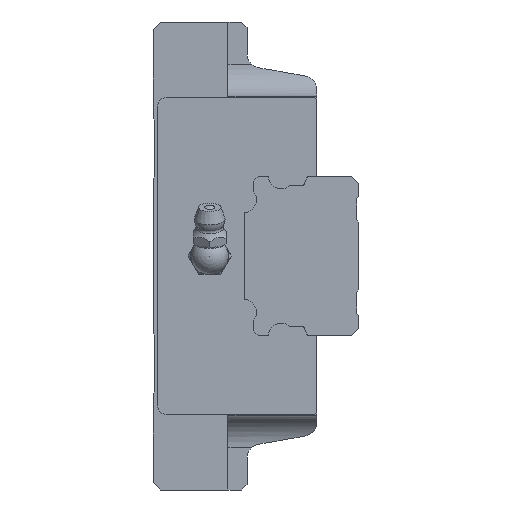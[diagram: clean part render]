
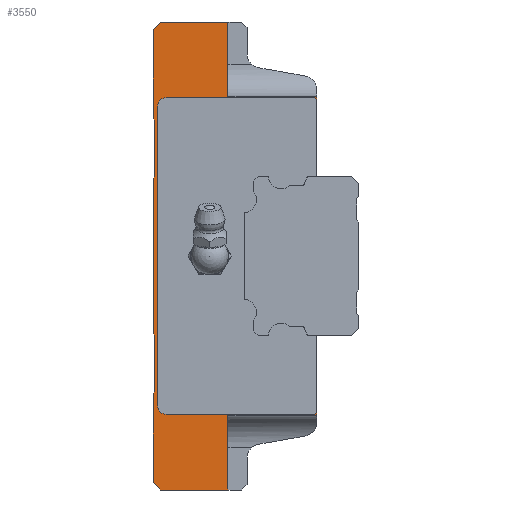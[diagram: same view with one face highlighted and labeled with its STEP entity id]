
A CAD part, left-side view. The second image highlights one B-rep face of the part: STEP entity #3550.
In plain terms, the highlighted planar face has unit normal (-1, 0, 0).
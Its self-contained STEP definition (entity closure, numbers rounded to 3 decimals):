
#208=CIRCLE('',#3906,1.8);
#209=CIRCLE('',#3907,1.8);
#855=ORIENTED_EDGE('',*,*,#1664,.T.);
#856=ORIENTED_EDGE('',*,*,#1665,.F.);
#857=ORIENTED_EDGE('',*,*,#1518,.F.);
#858=ORIENTED_EDGE('',*,*,#1666,.F.);
#859=ORIENTED_EDGE('',*,*,#1667,.F.);
#860=ORIENTED_EDGE('',*,*,#1668,.F.);
#861=ORIENTED_EDGE('',*,*,#1669,.F.);
#862=ORIENTED_EDGE('',*,*,#1670,.F.);
#863=ORIENTED_EDGE('',*,*,#1671,.F.);
#864=ORIENTED_EDGE('',*,*,#1672,.F.);
#865=ORIENTED_EDGE('',*,*,#1505,.F.);
#866=ORIENTED_EDGE('',*,*,#1673,.T.);
#867=ORIENTED_EDGE('',*,*,#1674,.T.);
#868=ORIENTED_EDGE('',*,*,#1603,.F.);
#869=ORIENTED_EDGE('',*,*,#1595,.F.);
#870=ORIENTED_EDGE('',*,*,#1651,.F.);
#871=ORIENTED_EDGE('',*,*,#1648,.F.);
#872=ORIENTED_EDGE('',*,*,#1645,.F.);
#873=ORIENTED_EDGE('',*,*,#1642,.F.);
#874=ORIENTED_EDGE('',*,*,#1639,.F.);
#875=ORIENTED_EDGE('',*,*,#1636,.F.);
#876=ORIENTED_EDGE('',*,*,#1633,.F.);
#877=ORIENTED_EDGE('',*,*,#1630,.F.);
#878=ORIENTED_EDGE('',*,*,#1627,.F.);
#879=ORIENTED_EDGE('',*,*,#1624,.F.);
#880=ORIENTED_EDGE('',*,*,#1621,.F.);
#1505=EDGE_CURVE('',#1959,#1960,#2282,.T.);
#1518=EDGE_CURVE('',#1971,#1972,#2295,.T.);
#1595=EDGE_CURVE('',#2044,#2045,#2333,.T.);
#1603=EDGE_CURVE('',#2045,#2052,#2341,.T.);
#1621=EDGE_CURVE('',#2063,#2064,#2359,.T.);
#1624=EDGE_CURVE('',#2064,#2066,#2362,.T.);
#1627=EDGE_CURVE('',#2066,#2068,#2365,.T.);
#1630=EDGE_CURVE('',#2068,#2070,#2368,.T.);
#1633=EDGE_CURVE('',#2070,#2072,#2371,.T.);
#1636=EDGE_CURVE('',#2072,#2074,#2374,.T.);
#1639=EDGE_CURVE('',#2074,#2076,#2377,.T.);
#1642=EDGE_CURVE('',#2076,#2078,#2380,.T.);
#1645=EDGE_CURVE('',#2078,#2080,#2383,.T.);
#1648=EDGE_CURVE('',#2080,#2082,#2386,.T.);
#1651=EDGE_CURVE('',#2082,#2044,#2389,.T.);
#1664=EDGE_CURVE('',#2063,#2092,#2400,.T.);
#1665=EDGE_CURVE('',#1972,#2092,#2401,.T.);
#1666=EDGE_CURVE('',#2093,#1971,#2402,.T.);
#1667=EDGE_CURVE('',#2094,#2093,#2403,.T.);
#1668=EDGE_CURVE('',#2095,#2094,#208,.F.);
#1669=EDGE_CURVE('',#2096,#2095,#2404,.T.);
#1670=EDGE_CURVE('',#2097,#2096,#209,.F.);
#1671=EDGE_CURVE('',#2098,#2097,#2405,.T.);
#1672=EDGE_CURVE('',#1960,#2098,#2406,.T.);
#1673=EDGE_CURVE('',#1959,#2099,#2407,.T.);
#1674=EDGE_CURVE('',#2099,#2052,#2408,.T.);
#1959=VERTEX_POINT('',#5543);
#1960=VERTEX_POINT('',#5545);
#1971=VERTEX_POINT('',#5569);
#1972=VERTEX_POINT('',#5571);
#2044=VERTEX_POINT('',#5723);
#2045=VERTEX_POINT('',#5724);
#2052=VERTEX_POINT('',#5740);
#2063=VERTEX_POINT('',#5773);
#2064=VERTEX_POINT('',#5775);
#2066=VERTEX_POINT('',#5781);
#2068=VERTEX_POINT('',#5787);
#2070=VERTEX_POINT('',#5793);
#2072=VERTEX_POINT('',#5799);
#2074=VERTEX_POINT('',#5805);
#2076=VERTEX_POINT('',#5811);
#2078=VERTEX_POINT('',#5817);
#2080=VERTEX_POINT('',#5823);
#2082=VERTEX_POINT('',#5829);
#2092=VERTEX_POINT('',#5858);
#2093=VERTEX_POINT('',#5861);
#2094=VERTEX_POINT('',#5863);
#2095=VERTEX_POINT('',#5865);
#2096=VERTEX_POINT('',#5867);
#2097=VERTEX_POINT('',#5869);
#2098=VERTEX_POINT('',#5871);
#2099=VERTEX_POINT('',#5874);
#2282=LINE('',#5544,#2594);
#2295=LINE('',#5570,#2607);
#2333=LINE('',#5722,#2645);
#2341=LINE('',#5739,#2653);
#2359=LINE('',#5774,#2671);
#2362=LINE('',#5780,#2674);
#2365=LINE('',#5786,#2677);
#2368=LINE('',#5792,#2680);
#2371=LINE('',#5798,#2683);
#2374=LINE('',#5804,#2686);
#2377=LINE('',#5810,#2689);
#2380=LINE('',#5816,#2692);
#2383=LINE('',#5822,#2695);
#2386=LINE('',#5828,#2698);
#2389=LINE('',#5834,#2701);
#2400=LINE('',#5857,#2712);
#2401=LINE('',#5859,#2713);
#2402=LINE('',#5860,#2714);
#2403=LINE('',#5862,#2715);
#2404=LINE('',#5866,#2716);
#2405=LINE('',#5870,#2717);
#2406=LINE('',#5872,#2718);
#2407=LINE('',#5873,#2719);
#2408=LINE('',#5875,#2720);
#2594=VECTOR('',#4456,1000.);
#2607=VECTOR('',#4471,1000.);
#2645=VECTOR('',#4593,1000.);
#2653=VECTOR('',#4603,1000.);
#2671=VECTOR('',#4631,1000.);
#2674=VECTOR('',#4636,1000.);
#2677=VECTOR('',#4641,1000.);
#2680=VECTOR('',#4646,1000.);
#2683=VECTOR('',#4651,1000.);
#2686=VECTOR('',#4656,1000.);
#2689=VECTOR('',#4661,1000.);
#2692=VECTOR('',#4666,1000.);
#2695=VECTOR('',#4671,1000.);
#2698=VECTOR('',#4676,1000.);
#2701=VECTOR('',#4681,1000.);
#2712=VECTOR('',#4700,1000.);
#2713=VECTOR('',#4701,1000.);
#2714=VECTOR('',#4702,1000.);
#2715=VECTOR('',#4703,1000.);
#2716=VECTOR('',#4706,1000.);
#2717=VECTOR('',#4709,1000.);
#2718=VECTOR('',#4710,1000.);
#2719=VECTOR('',#4711,1000.);
#2720=VECTOR('',#4712,1000.);
#2920=EDGE_LOOP('',(#855,#856,#857,#858,#859,#860,#861,#862,#863,#864,#865,
#866,#867,#868,#869,#870,#871,#872,#873,#874,#875,#876,#877,#878,#879,#880));
#3191=FACE_BOUND('',#2920,.T.);
#3399=PLANE('',#3905);
#3550=ADVANCED_FACE('',(#3191),#3399,.F.);
#3905=AXIS2_PLACEMENT_3D('',#5856,#4698,#4699);
#3906=AXIS2_PLACEMENT_3D('',#5864,#4704,#4705);
#3907=AXIS2_PLACEMENT_3D('',#5868,#4707,#4708);
#4456=DIRECTION('',(0.,0.,-1.));
#4471=DIRECTION('',(0.,0.,-1.));
#4593=DIRECTION('',(0.,-0.707,0.707));
#4603=DIRECTION('',(0.,-1.,0.));
#4631=DIRECTION('',(0.,1.,0.));
#4636=DIRECTION('',(0.,0.707,0.707));
#4641=DIRECTION('',(0.,0.,1.));
#4646=DIRECTION('',(0.,-0.717,0.697));
#4651=DIRECTION('',(0.,0.,1.));
#4656=DIRECTION('',(0.,0.717,0.697));
#4661=DIRECTION('',(0.,0.,1.));
#4666=DIRECTION('',(0.,-0.717,0.697));
#4671=DIRECTION('',(0.,0.,1.));
#4676=DIRECTION('',(0.,0.717,0.697));
#4681=DIRECTION('',(0.,0.,1.));
#4698=DIRECTION('',(1.,0.,0.));
#4699=DIRECTION('',(0.,0.,-1.));
#4700=DIRECTION('',(0.,0.,1.));
#4701=DIRECTION('',(0.,1.,0.));
#4702=DIRECTION('',(0.,-0.707,0.707));
#4703=DIRECTION('',(0.,-1.,0.));
#4704=DIRECTION('',(1.,0.,0.));
#4705=DIRECTION('',(0.,0.,-1.));
#4706=DIRECTION('',(0.,0.,-1.));
#4707=DIRECTION('',(1.,0.,0.));
#4708=DIRECTION('',(0.,0.,-1.));
#4709=DIRECTION('',(0.,1.,0.));
#4710=DIRECTION('',(0.,0.707,0.707));
#4711=DIRECTION('',(0.,1.,0.));
#4712=DIRECTION('',(0.,0.,1.));
#5543=CARTESIAN_POINT('',(-39.5,0.,34.));
#5544=CARTESIAN_POINT('',(-39.5,0.,35.5));
#5545=CARTESIAN_POINT('',(-39.5,0.,33.3));
#5569=CARTESIAN_POINT('',(-39.5,0.,-33.3));
#5570=CARTESIAN_POINT('',(-39.5,0.,35.5));
#5571=CARTESIAN_POINT('',(-39.5,0.,-34.));
#5722=CARTESIAN_POINT('',(-39.5,35.,48.4));
#5723=CARTESIAN_POINT('',(-39.5,35.,48.4));
#5724=CARTESIAN_POINT('',(-39.5,33.4,50.));
#5739=CARTESIAN_POINT('',(-39.5,33.4,50.));
#5740=CARTESIAN_POINT('',(-39.5,19.,50.));
#5773=CARTESIAN_POINT('',(-39.5,19.,-50.));
#5774=CARTESIAN_POINT('',(-39.5,16.1,-50.));
#5775=CARTESIAN_POINT('',(-39.5,33.4,-50.));
#5780=CARTESIAN_POINT('',(-39.5,33.4,-50.));
#5781=CARTESIAN_POINT('',(-39.5,35.,-48.4));
#5786=CARTESIAN_POINT('',(-39.5,35.,-48.4));
#5787=CARTESIAN_POINT('',(-39.5,35.,-29.4));
#5792=CARTESIAN_POINT('',(-39.5,35.,-29.4));
#5793=CARTESIAN_POINT('',(-39.5,34.6,-29.011));
#5798=CARTESIAN_POINT('',(-39.5,34.6,-29.011));
#5799=CARTESIAN_POINT('',(-39.5,34.6,-16.989));
#5804=CARTESIAN_POINT('',(-39.5,34.6,-16.989));
#5805=CARTESIAN_POINT('',(-39.5,35.,-16.6));
#5810=CARTESIAN_POINT('',(-39.5,35.,-16.6));
#5811=CARTESIAN_POINT('',(-39.5,35.,16.6));
#5816=CARTESIAN_POINT('',(-39.5,35.,16.6));
#5817=CARTESIAN_POINT('',(-39.5,34.6,16.989));
#5822=CARTESIAN_POINT('',(-39.5,34.6,16.989));
#5823=CARTESIAN_POINT('',(-39.5,34.6,29.011));
#5828=CARTESIAN_POINT('',(-39.5,34.6,29.011));
#5829=CARTESIAN_POINT('',(-39.5,35.,29.4));
#5834=CARTESIAN_POINT('',(-39.5,35.,29.4));
#5856=CARTESIAN_POINT('',(-39.5,11.9,43.2));
#5857=CARTESIAN_POINT('',(-39.5,19.,-64.));
#5858=CARTESIAN_POINT('',(-39.5,19.,-34.));
#5859=CARTESIAN_POINT('',(-39.5,-16.,-34.));
#5860=CARTESIAN_POINT('',(-39.5,-32.3,-1.));
#5861=CARTESIAN_POINT('',(-39.5,0.5,-33.8));
#5862=CARTESIAN_POINT('',(-39.5,11.9,-33.8));
#5863=CARTESIAN_POINT('',(-39.5,32.2,-33.8));
#5864=CARTESIAN_POINT('',(-39.5,32.2,-32.));
#5865=CARTESIAN_POINT('',(-39.5,34.,-32.));
#5866=CARTESIAN_POINT('',(-39.5,34.,43.2));
#5867=CARTESIAN_POINT('',(-39.5,34.,32.));
#5868=CARTESIAN_POINT('',(-39.5,32.2,32.));
#5869=CARTESIAN_POINT('',(-39.5,32.2,33.8));
#5870=CARTESIAN_POINT('',(-39.5,11.9,33.8));
#5871=CARTESIAN_POINT('',(-39.5,0.5,33.8));
#5872=CARTESIAN_POINT('',(-39.5,10.9,44.2));
#5873=CARTESIAN_POINT('',(-39.5,-16.,34.));
#5874=CARTESIAN_POINT('',(-39.5,19.,34.));
#5875=CARTESIAN_POINT('',(-39.5,19.,34.));
